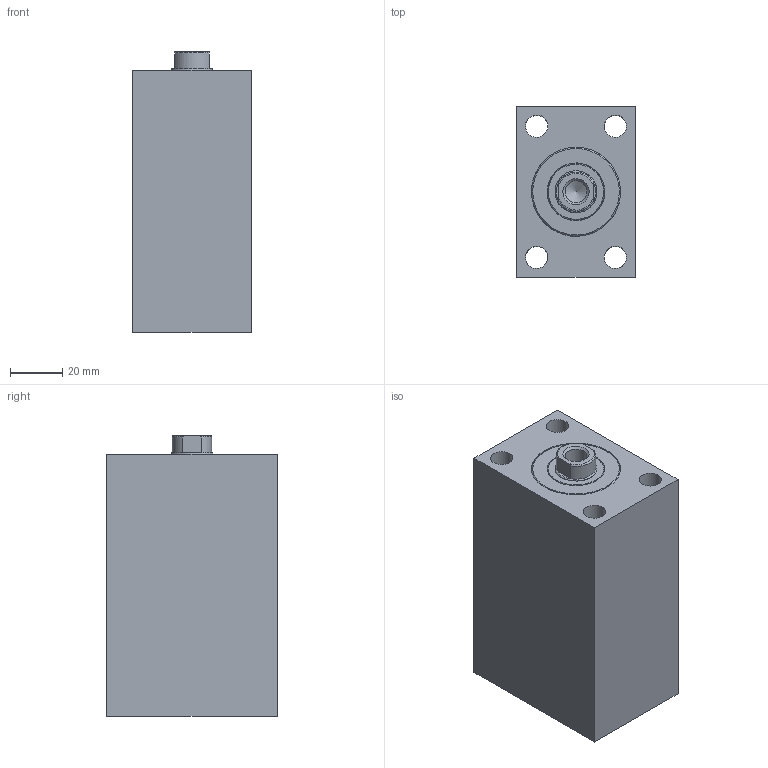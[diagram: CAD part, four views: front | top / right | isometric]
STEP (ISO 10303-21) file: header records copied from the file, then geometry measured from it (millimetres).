
FILE_DESCRIPTION( ( 'STEP AP203' ), '1' );
FILE_NAME( 'C:/Users/SAYKO.ltd/Desktop/SBZ100/02/SBZ100-25/SBZ100.25__FORM_02_STROKE_35__H2_58_POS_0_.stp', ' ', ( ' ' ), ( ' ' ), 'PSStep 15.0.47', 'PARTsolutions', ' ' );
FILE_SCHEMA( ( 'CONFIG_CONTROL_DESIGN' ) );
Length unit declared in the file: millimetre
Products named in the file (5): SBZ100.25  FORM=02 STROKE=35 (H2=58 POS=0); HI_SBZ10025  FORM=02 STROKE=35 H2=58 -C; HI_SBZ10025  FORM=02 STROKE=35-R; HI_SBZ100.25-C; HI_SBZ100.25-S
Assembly tree (4 placements, depth 2):
  SBZ100.25  FORM=02 STROKE=35 (H2=58 POS=0)
    HI_SBZ10025  FORM=02 STROKE=35 H2=58 -C
    HI_SBZ10025  FORM=02 STROKE=35-R
    HI_SBZ100.25-C
    HI_SBZ100.25-S
Bounding box: 45 x 65 x 107 mm (x, y, z)
Volume: 253048.4 mm3; surface area: 61179.1 mm2
Topology: 4 solids, 4 shells, 66 faces, 130 edges, 85 vertices
Faces by surface type: plane 31, cylinder 28, cone 4, torus 3
Full cylindrical faces by diameter (mm): 3 x2, 8.376 x1, 8.5 x4, 11.445 x2, 13.6 x4, 16 x6, 22 x1, 24 x2, 25 x2, 34 x2
Entity records: 3609 total; most frequent: CARTESIAN_POINT 2379, ORIENTED_EDGE 176, DIRECTION 158, EDGE_LOOP 128, FACE_OUTER_BOUND 93, EDGE_CURVE 88, VERTEX_POINT 77, B_SPLINE_CURVE_WITH_KNOTS 72
